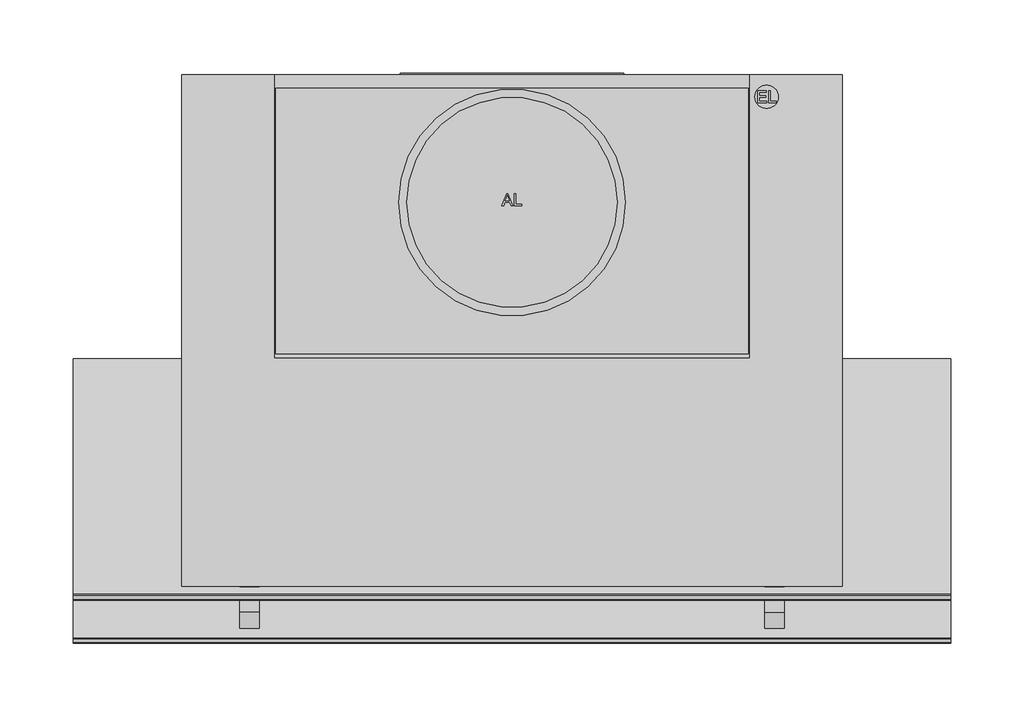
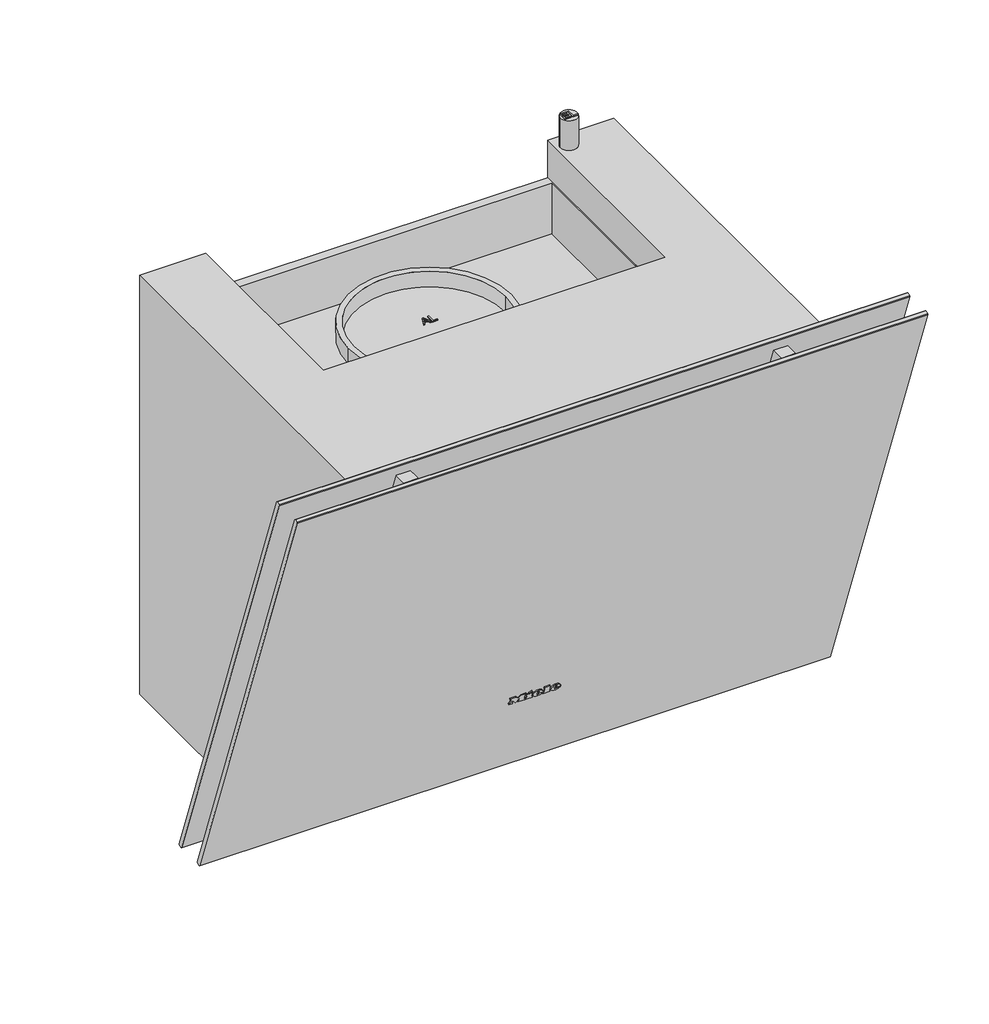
# Not in any storey: 1 proxy.
"""IFC4 building model written with IfcOpenShell, lengths in millimetres."""

import ifcopenshell
import ifcopenshell.guid

model = None  # the IFC model being written
_history = None  # IfcOwnerHistory: only IFC2X3 demands one
_inside = {}  # id of a spatial element -> (the spatial element, [elements in it])
_under = {}  # id of a project, library or spatial element -> (it, [spatial elements below it])
_declared = {}  # id of a project -> (the project, [libraries it declares])
_typed = {}  # id of a type object -> (the type object, [elements of that type])
_made_of = {}  # id of a material, layer set ... -> (it, [elements and type objects made of it])


def new_model(schema):
    """Start an empty IFC model of exactly this schema.

    Asked for "IFC4X3", IfcOpenShell would pick the latest addendum, in which some entities
    have other attributes; the version numbers below select the first issue.
    IFC2X3 requires an IfcOwnerHistory on every rooted entity: one is made here for all.
    """
    global model, _history
    if schema == "IFC4X3":
        model = ifcopenshell.file(schema_version=(4, 3, 0, 0))
    else:
        model = ifcopenshell.file(schema=schema)
    _inside.clear()
    _under.clear()
    _declared.clear()
    _typed.clear()
    _made_of.clear()
    _history = None
    if model.schema == "IFC2X3":
        org = make("IfcOrganization", Name="unknown")
        user = make(
            "IfcPersonAndOrganization",
            ThePerson=make("IfcPerson", FamilyName="unknown"),
            TheOrganization=org,
        )
        app = make(
            "IfcApplication",
            ApplicationDeveloper=org,
            Version="unknown",
            ApplicationFullName="unknown",
            ApplicationIdentifier="unknown",
        )
        _history = make(
            "IfcOwnerHistory",
            OwningUser=user,
            OwningApplication=app,
            ChangeAction="ADDED",
            CreationDate=0,
        )
    return model


def make(cls, **values):
    """One entity of the class cls with the attributes given. An attribute that is None is left unset."""
    return model.create_entity(
        cls, **{name: value for name, value in values.items() if value is not None}
    )


def rooted(cls, **values):
    """An entity with a GlobalId (a new one), such as an element, a storey or a relation."""
    return make(cls, GlobalId=ifcopenshell.guid.new(), OwnerHistory=_history, **values)


def si_unit(unit_type, name, prefix=None):
    """IfcSIUnit, for example si_unit("LENGTHUNIT", "METRE", prefix="MILLI")."""
    return make("IfcSIUnit", UnitType=unit_type, Prefix=prefix, Name=name)


def assignment(units):
    """IfcUnitAssignment: the units of a project."""
    return None if units is None else make("IfcUnitAssignment", Units=units)


def point(xyz):
    """IfcCartesianPoint."""
    return None if xyz is None else make("IfcCartesianPoint", Coordinates=xyz)


def direction(xyz):
    """IfcDirection."""
    return None if xyz is None else make("IfcDirection", DirectionRatios=xyz)


def frame(location, z_axis=None, x_axis=None):
    """IfcAxis2Placement3D, a coordinate frame: its origin and axes. An axis left out is left unset."""
    return make(
        "IfcAxis2Placement3D",
        Location=point(location),
        Axis=direction(z_axis),
        RefDirection=direction(x_axis),
    )


def frame_2d(location, x_axis=None):
    """IfcAxis2Placement2D, a coordinate frame in the plane: its origin and x axis."""
    return make(
        "IfcAxis2Placement2D", Location=point(location), RefDirection=direction(x_axis)
    )


def origin():
    """The frame at (0, 0, 0) with its axes left unset."""
    return frame((0.0, 0.0, 0.0))


def origin_with_axes():
    """The frame at (0, 0, 0) with the z axis (0, 0, 1) and the x axis (1, 0, 0) written out."""
    return frame((0.0, 0.0, 0.0), z_axis=(0.0, 0.0, 1.0), x_axis=(1.0, 0.0, 0.0))


def place(relative_to, where):
    """IfcLocalPlacement: puts the frame where relative to a parent placement (None: the world)."""
    return make(
        "IfcLocalPlacement", PlacementRelTo=relative_to, RelativePlacement=where
    )


def context(
    kind, dimensions, precision=None, world=None, true_north=None, identifier=None
):
    """IfcGeometricRepresentationContext, for example the 3D "Model" context."""
    return make(
        "IfcGeometricRepresentationContext",
        ContextIdentifier=identifier,
        ContextType=kind,
        CoordinateSpaceDimension=dimensions,
        Precision=precision,
        WorldCoordinateSystem=world,
        TrueNorth=true_north,
    )


def project(units=None, contexts=None):
    """IfcProject with its units and contexts."""
    return rooted(
        "IfcProject",
        Name="project",
        RepresentationContexts=contexts,
        UnitsInContext=assignment(units),
    )


def spatial(cls, under=None, at=None, **own):
    """A site, building, storey or space (cls), placed at a placement, below another one or the project."""
    s = rooted(cls, ObjectPlacement=at, **own)
    if under is not None:
        _under.setdefault(under.id(), (under, []))[1].append(s)
    return s


def polyline(points):
    """IfcPolyline through the points."""
    return make("IfcPolyline", Points=[point(p) for p in points])


def circle_curve(where, radius):
    """IfcCircle in the frame where."""
    return make("IfcCircle", Position=where, Radius=radius)


def ellipse_curve(where, semi_axis1, semi_axis2):
    """IfcEllipse in the frame where."""
    return make(
        "IfcEllipse", Position=where, SemiAxis1=semi_axis1, SemiAxis2=semi_axis2
    )


def trimmed(basis, trim1, trim2, sense, master):
    """IfcTrimmedCurve: the piece of a basis curve between two trims."""
    return make(
        "IfcTrimmedCurve",
        BasisCurve=basis,
        Trim1=trim1,
        Trim2=trim2,
        SenseAgreement=sense,
        MasterRepresentation=master,
    )


def segment(curve, same_sense, transition):
    """IfcCompositeCurveSegment."""
    return make(
        "IfcCompositeCurveSegment",
        Transition=transition,
        SameSense=same_sense,
        ParentCurve=curve,
    )


def composite_curve(segments, self_intersect=None):
    """IfcCompositeCurve: segments joined end to end."""
    return make("IfcCompositeCurve", Segments=segments, SelfIntersect=self_intersect)


def outline(outer, holes=None, kind="AREA"):
    """IfcArbitraryClosedProfileDef: a profile drawn as a closed curve; with holes, ...WithVoids."""
    if holes is None:
        return make("IfcArbitraryClosedProfileDef", ProfileType=kind, OuterCurve=outer)
    return make(
        "IfcArbitraryProfileDefWithVoids",
        ProfileType=kind,
        OuterCurve=outer,
        InnerCurves=holes,
    )


def extrude(swept, where, along, depth):
    """IfcExtrudedAreaSolid: the profile swept, set in the frame where, extruded along a direction by depth."""
    return make(
        "IfcExtrudedAreaSolid",
        SweptArea=swept,
        Position=where,
        ExtrudedDirection=direction(along),
        Depth=depth,
    )


def faces_of(points, faces, orient=None, outer=None):
    """IfcFace entities. A face is a list of loops; a loop is a list of indices into points, from 0.

    orient and outer hold one flag for each loop. By default every Orientation is true, the
    first loop of a face is its IfcFaceOuterBound and the others are IfcFaceBound.
    """
    made = []
    for i, loops in enumerate(faces):
        bounds = []
        for j, loop in enumerate(loops):
            is_outer = j == 0 if outer is None else outer[i][j]
            bounds.append(
                make(
                    "IfcFaceOuterBound" if is_outer else "IfcFaceBound",
                    Bound=make("IfcPolyLoop", Polygon=[points[k] for k in loop]),
                    Orientation=True if orient is None else orient[i][j],
                )
            )
        made.append(make("IfcFace", Bounds=bounds))
    return made


def faceted_brep(points, faces, orient=None, outer=None, voids=None):
    """IfcFacetedBrep: a solid bounded by flat faces; with voids (closed shells), ...WithVoids."""
    shared = [point(p) for p in points]
    hull = make("IfcClosedShell", CfsFaces=faces_of(shared, faces, orient, outer))
    if voids is None:
        return make("IfcFacetedBrep", Outer=hull)
    return make(
        "IfcFacetedBrepWithVoids",
        Outer=hull,
        Voids=[
            make(cls, CfsFaces=faces_of(shared, fs, o, b)) for cls, fs, o, b in voids
        ],
    )


def shape(context_of_items, identifier, shape_type, items):
    """IfcShapeRepresentation: the items that make up one representation, for example the "Body"."""
    return make(
        "IfcShapeRepresentation",
        ContextOfItems=context_of_items,
        RepresentationIdentifier=identifier,
        RepresentationType=shape_type,
        Items=items,
    )


def source(mapping_origin, context_of_items, identifier, shape_type, items):
    """IfcRepresentationMap: a shape defined once, which mapped items show again and again."""
    return make(
        "IfcRepresentationMap",
        MappingOrigin=mapping_origin,
        MappedRepresentation=shape(context_of_items, identifier, shape_type, items),
    )


def transform(
    local_origin,
    x_axis=None,
    y_axis=None,
    z_axis=None,
    scale=None,
    scale2=None,
    scale3=None,
    uniform=True,
):
    """IfcCartesianTransformationOperator3D, or its non-uniform kind. x_axis, y_axis, z_axis: its Axis1, 2, 3."""
    if uniform:
        return make(
            "IfcCartesianTransformationOperator3D",
            Axis1=direction(x_axis),
            Axis2=direction(y_axis),
            LocalOrigin=point(local_origin),
            Scale=scale,
            Axis3=direction(z_axis),
        )
    return make(
        "IfcCartesianTransformationOperator3DnonUniform",
        Axis1=direction(x_axis),
        Axis2=direction(y_axis),
        LocalOrigin=point(local_origin),
        Scale=scale,
        Axis3=direction(z_axis),
        Scale2=scale2,
        Scale3=scale3,
    )


def mapped(mapping_source, mapping_target):
    """IfcMappedItem: shows the shape of a source again, moved by a transform."""
    return make(
        "IfcMappedItem", MappingSource=mapping_source, MappingTarget=mapping_target
    )


def made_of(thing, what):
    """Note that an element or type object is made of a material, layer set ...; save() writes the relation."""
    if what is not None:
        _made_of.setdefault(what.id(), (what, []))[1].append(thing)
    return thing


def element(
    cls,
    number,
    at=None,
    inside=None,
    cuts=None,
    type_object=None,
    material=None,
    context=None,
    identifier="Body",
    shape_type=None,
    held_by="IfcProductDefinitionShape",
    body=None,
    shapes=None,
    **own,
):
    """One element of the class cls, such as IfcWall. Its Tag is "e" and its number.

    at: its placement. inside: the storey or other place that contains it. cuts: it is an
    opening in that element (IfcRelVoidsElement). A single representation is given by context,
    identifier, shape_type and body (its items); several are given by shapes. held_by: the class
    of the entity that holds the representations. save() writes the other relations.
    """
    e = rooted(cls, Tag="e%d" % number, ObjectPlacement=at, **own)
    if body is not None:
        shapes = [shape(context, identifier, shape_type, body)]
    if shapes is not None:
        e.Representation = make(held_by, Representations=shapes)
    if inside is not None:
        _inside.setdefault(inside.id(), (inside, []))[1].append(e)
    if cuts is not None:
        rooted(
            "IfcRelVoidsElement", RelatingBuildingElement=cuts, RelatedOpeningElement=e
        )
    if type_object is not None:
        _typed.setdefault(type_object.id(), (type_object, []))[1].append(e)
    return made_of(e, material)


def aggregate(whole, parts):
    """IfcRelAggregates: a whole, such as a stair, and the parts it consists of."""
    return rooted("IfcRelAggregates", RelatingObject=whole, RelatedObjects=parts)


def save(model, path):
    """Write the relations noted so far, then the file.

    IfcRelAggregates (storeys below a building ...), IfcRelContainedInSpatialStructure (elements
    in a storey), IfcRelDefinesByType, IfcRelAssociatesMaterial and IfcRelDeclares: one each for
    every whole, place, type object, material and project.
    """
    for whole, parts in _under.values():
        aggregate(whole, parts)
    for where, things in _inside.values():
        rooted(
            "IfcRelContainedInSpatialStructure",
            RelatedElements=things,
            RelatingStructure=where,
        )
    for kind, things in _typed.values():
        rooted("IfcRelDefinesByType", RelatedObjects=things, RelatingType=kind)
    for what, things in _made_of.values():
        rooted("IfcRelAssociatesMaterial", RelatedObjects=things, RelatingMaterial=what)
    for by, libraries in _declared.values():
        rooted("IfcRelDeclares", RelatingContext=by, RelatedDefinitions=libraries)
    model.write(path)


def plane_surface(at):
    """IfcPlane: the flat surface through the origin of the frame at, square to its z axis."""
    return make("IfcPlane", Position=at)


def cylinder_surface(at, radius):
    """IfcCylindricalSurface: all points at the distance radius from the z axis of the frame at."""
    return make("IfcCylindricalSurface", Position=at, Radius=radius)


def revolved_surface(curve, axis_point, axis_direction):
    """IfcSurfaceOfRevolution: the curve turned about the line through axis_point along axis_direction."""
    return make(
        "IfcSurfaceOfRevolution",
        SweptCurve=make("IfcArbitraryOpenProfileDef", ProfileType="CURVE", Curve=curve),
        AxisPosition=make("IfcAxis1Placement", Location=point(axis_point), Axis=direction(axis_direction)),
    )


def extruded_surface(curve, direction_of_extrusion, depth):
    """IfcSurfaceOfLinearExtrusion: the curve pushed along a direction by depth."""
    return make(
        "IfcSurfaceOfLinearExtrusion",
        SweptCurve=make("IfcArbitraryOpenProfileDef", ProfileType="CURVE", Curve=curve),
        ExtrudedDirection=direction(direction_of_extrusion),
        Depth=depth,
    )


def advanced_brep(points, edges, surfaces, faces):
    """IfcAdvancedBrep: a solid bounded by faces that lie on surfaces and meet in shared edges.

    An edge is (start, end): straight between two places in points (the first is 0);
    or (start, end, curve); or (start, end, curve, False) where it runs against its curve.
    A face is (place in surfaces, loops), or (place, loops, False) where it looks against
    its surface's normal. A loop lists edges by number (the first is 1), with a minus sign
    where the edge is run from its end to its start. The first loop is the outer one.
    """
    corners = [point(p) for p in points]
    vertices = [make("IfcVertexPoint", VertexGeometry=c) for c in corners]
    made = []
    for start, end, *more in edges:
        made.append(
            make(
                "IfcEdgeCurve",
                EdgeStart=vertices[start],
                EdgeEnd=vertices[end],
                EdgeGeometry=more[0] if more else make("IfcPolyline", Points=[corners[start], corners[end]]),
                SameSense=more[1] if len(more) > 1 else True,
            )
        )
    hull = []
    for where, loops, *sense in faces:
        bounds = []
        for j, loop in enumerate(loops):
            ring = [make("IfcOrientedEdge", EdgeElement=made[abs(k) - 1], Orientation=k > 0) for k in loop]
            bounds.append(
                make(
                    "IfcFaceOuterBound" if j == 0 else "IfcFaceBound",
                    Bound=make("IfcEdgeLoop", EdgeList=ring),
                    Orientation=True,
                )
            )
        hull.append(make("IfcAdvancedFace", Bounds=bounds, FaceSurface=surfaces[where], SameSense=sense[0] if sense else True))
    return make("IfcAdvancedBrep", Outer=make("IfcClosedShell", CfsFaces=hull))


def specialty_equipment_4fd9b456(model_context):
    return source(origin(), model_context, "Body", "SolidModel", [
        extrude(outline(polyline([(0.0, 0.0), (0.968, 0.0), (0.968, 5.352), (0.0, 5.352), (0.0, 6.696), (3.52, 6.696), (3.52, 5.352), (2.56, 5.352), (2.56, 1.9488753), (6.136, 6.696), (9.728, 1.8807777), (9.728, 5.352), (8.744, 5.352), (8.744, 6.696), (15.128, 6.696), (15.128, 5.352), (14.112, 5.352), (14.112, 0.0), (15.128, 0.0), (15.128, -1.304), (10.256, -1.304), (7.92, 1.696), (5.576, -1.304), (0.0, -1.304), (0.0, 0.0)])), frame((-24.271984, -261.1380975, 82.2921818), z_axis=(0.0, 0.9396926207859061, 0.34202014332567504), x_axis=(1.0, 0.0, 0.0)), (0.0, 0.0, 1.0), 1.0),
        extrude(outline(polyline([(0.0, 0.0), (0.96, 0.0), (0.96, 5.352), (0.0, 5.352), (0.0, 6.696), (6.488, 6.696), (6.488, 5.352), (5.504, 5.352), (5.504, -1.304), (0.0, -1.304), (0.0, 0.0)])), frame((8.192016, -261.1380975, 82.2921818), z_axis=(0.0, 0.9396926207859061, 0.34202014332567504), x_axis=(1.0, 0.0, 0.0)), (0.0, 0.0, 1.0), 1.0),
        extrude(outline(polyline([(0.0, 0.0), (1.4315306, 0.0), (1.4390414, -2.9920869), (0.0109086, -2.9993294), (0.0, 0.0)])), frame((-6.351984, -261.4226582, 83.074006), z_axis=(0.0, 0.9396926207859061, 0.342020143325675), x_axis=(0.42472021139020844, 0.30963927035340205, -0.8507269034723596)), (0.0, 0.0, 1.0), 1.0),
        extrude(outline(polyline([(0.4933907, 2.4141097), (1.7898156, 3.022309), (2.1941493, 2.1604399), (5.1636141, 3.5535222), (4.7592805, 4.4153913), (5.9760369, 4.9862153), (8.6568708, -0.728194), (7.4401145, -1.299018), (7.0459741, -0.4588767), (2.7800843, -2.4601583), (0.4933907, 2.4141097)])), frame((-6.351984, -261.4226582, 83.074006), z_axis=(0.0, 0.9396926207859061, 0.342020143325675), x_axis=(0.42472021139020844, 0.30963927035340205, -0.8507269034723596)), (0.0, 0.0, 1.0), 1.0),
        advanced_brep(
        [(2.392016, -259.4964008, 77.7816572), (2.392016, -259.7727531, 78.5409288), (7.744016, -259.7727531, 78.5409288), (-1.567984, -259.7727531, 78.5409288), (0.632016, -258.8479306, 76.0), (7.608016, -259.4964008, 77.7816572), (5.192016, -259.4964008, 77.7816572), (3.288016, -259.1899507, 76.9396926), (2.392016, -260.1229817, 79.5031741), (2.392016, -260.4212233, 80.3225861), (3.760016, -260.4212233, 80.3225861), (3.760016, -260.1229817, 79.5031741), (2.392016, -258.5567082, 78.1236774), (3.288016, -258.2502581, 77.2817128), (5.192016, -258.5567082, 78.1236774), (7.608016, -258.5567082, 78.1236774), (0.632016, -257.908238, 76.3420201), (-1.567984, -258.8330604, 78.882949), (7.744016, -258.8330604, 78.882949), (2.392016, -258.8330604, 78.882949), (2.392016, -259.1832891, 79.8451942), (3.760016, -259.1832891, 79.8451942), (3.760016, -259.4815306, 80.6646062), (2.392016, -259.4815306, 80.6646062)],
        [
            (0, 1),
            (1, 2),
            (2, 3, ellipse_curve(frame((3.088016, -259.7727531, 78.5409288), z_axis=(0.0, -0.9396926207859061, -0.34202014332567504), x_axis=(-1.0, 0.0, 0.0)), 4.656, 3.848)),
            (3, 4, circle_curve(frame((1.5280596, -259.8657825, 78.7965252), z_axis=(0.0, -0.9396926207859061, -0.34202014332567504), x_axis=(0.0, 0.34202014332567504, -0.9396926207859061)), 3.1079688)),
            (4, 5, circle_curve(frame((2.9948096, -260.5881291, 80.7811561), z_axis=(0.0, -0.9396926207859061, -0.34202014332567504), x_axis=(0.0, 0.34202014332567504, -0.9396926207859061)), 5.6098607)),
            (5, 6),
            (6, 7, circle_curve(frame((3.6790748, -259.7508638, 78.4807885), z_axis=(0.0, 0.9396926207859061, 0.34202014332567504), x_axis=(0.0, 0.34202014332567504, -0.9396926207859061)), 1.6859795)),
            (7, 0, circle_curve(frame((3.288016, -259.4964008, 77.7816572), z_axis=(0.0, 0.9396926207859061, 0.34202014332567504), x_axis=(0.0, 0.34202014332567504, -0.9396926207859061)), 0.896)),
            (8, 9),
            (9, 10, circle_curve(frame((3.076016, -260.4212233, 80.3225861), z_axis=(0.0, 0.9396926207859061, 0.34202014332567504), x_axis=(0.0, 0.34202014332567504, -0.9396926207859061)), 0.684)),
            (10, 11),
            (11, 8),
            (12, 13, circle_curve(frame((3.288016, -258.5567082, 78.1236774), z_axis=(0.0, -0.9396926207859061, -0.34202014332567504), x_axis=(0.0, 0.34202014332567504, -0.9396926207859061)), 0.896)),
            (13, 14, circle_curve(frame((3.6790748, -258.8111712, 78.8228087), z_axis=(0.0, -0.9396926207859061, -0.34202014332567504), x_axis=(0.0, 0.34202014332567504, -0.9396926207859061)), 1.6859795)),
            (14, 15),
            (15, 16, circle_curve(frame((2.9948096, -259.6484365, 81.1231762), z_axis=(0.0, 0.9396926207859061, 0.34202014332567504), x_axis=(0.0, 0.34202014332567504, -0.9396926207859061)), 5.6098607)),
            (16, 17, circle_curve(frame((1.5280596, -258.9260899, 79.1385454), z_axis=(0.0, 0.9396926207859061, 0.34202014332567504), x_axis=(0.0, 0.34202014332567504, -0.9396926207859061)), 3.1079688)),
            (17, 18, ellipse_curve(frame((3.088016, -258.8330604, 78.882949), z_axis=(0.0, 0.9396926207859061, 0.34202014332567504), x_axis=(-1.0, 0.0, 0.0)), 4.656, 3.848)),
            (18, 19),
            (19, 12),
            (20, 21),
            (21, 22),
            (22, 23, circle_curve(frame((3.076016, -259.4815306, 80.6646062), z_axis=(0.0, -0.9396926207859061, -0.34202014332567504), x_axis=(0.0, 0.34202014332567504, -0.9396926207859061)), 0.684)),
            (23, 20),
            (0, 12),
            (19, 1),
            (18, 2),
            (5, 15),
            (14, 6),
            (17, 3),
            (13, 7),
            (16, 4),
            (8, 20),
            (23, 9),
            (22, 10),
            (21, 11),
        ],
        [
            plane_surface(frame((2.392016, -259.7727531, 78.5409288), z_axis=(0.0, -0.9396926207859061, -0.34202014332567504), x_axis=(0.0, -0.34202014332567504, 0.9396926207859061))),
            plane_surface(frame((2.392016, -258.8330604, 78.882949), z_axis=(0.0, 0.9396926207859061, 0.34202014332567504), x_axis=(0.0, 0.34202014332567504, -0.9396926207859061))),
            plane_surface(frame((2.392016, -259.4964008, 77.7816572), z_axis=(1.0, 0.0, 0.0), x_axis=(0.0, 0.9396926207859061, 0.34202014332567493))),
            plane_surface(frame((2.392016, -259.7727531, 78.5409288), z_axis=(0.0, 0.34202014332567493, -0.9396926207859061), x_axis=(0.0, 0.9396926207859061, 0.34202014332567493))),
            plane_surface(frame((7.608016, -259.4964008, 77.7816572), z_axis=(0.0, -0.34202014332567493, 0.9396926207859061), x_axis=(0.0, 0.9396926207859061, 0.34202014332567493))),
            extruded_surface(trimmed(ellipse_curve(frame((3.088016, -257.8933678, 79.2249691), z_axis=(0.0, -0.9396926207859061, -0.34202014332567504), x_axis=(-1.0, 0.0, 0.0)), 4.656, 3.848), [point((7.744016, -257.8933678, 79.2249691))], [point((-1.567984, -257.8933678, 79.2249691))], True, "CARTESIAN"), (0.0, -0.9396926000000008, -0.34202009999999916), 0.9999999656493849),
            revolved_surface(polyline([(3.6790748, -258.2345321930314, 77.23850622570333), (3.6790748, -259.1742248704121, 76.89648606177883)]), (3.6790748, -258.8111712, 78.8228087), (0.0, 0.9396926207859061, 0.34202014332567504)),
            revolved_surface(polyline([(3.288016, -258.25025810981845, 77.28171282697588), (3.288016, -259.1899507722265, 76.93969266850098)]), (3.288016, -258.5567082, 78.1236774), (0.0, 0.9396926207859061, 0.34202014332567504)),
            cylinder_surface(frame((1.5280596, -258.9260899, 79.1385454), z_axis=(0.0, -0.9396926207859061, -0.34202014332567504), x_axis=(0.0, 0.34202014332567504, -0.9396926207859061)), 3.1079688),
            cylinder_surface(frame((2.9948096, -259.6484365, 81.1231762), z_axis=(0.0, -0.9396926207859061, -0.34202014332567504), x_axis=(0.0, 0.34202014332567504, -0.9396926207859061)), 5.6098607),
            plane_surface(frame((2.392016, -260.1229817, 79.5031741), z_axis=(1.0, 0.0, 0.0), x_axis=(0.0, 0.9396926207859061, 0.34202014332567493))),
            revolved_surface(polyline([(3.076016, -259.2475888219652, 80.02185644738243), (3.076016, -260.1872814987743, 79.67983628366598)]), (3.076016, -259.4815306, 80.6646062), (0.0, 0.9396926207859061, 0.34202014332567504)),
            plane_surface(frame((3.760016, -260.4212233, 80.3225861), z_axis=(-1.0, 0.0, 0.0), x_axis=(0.0, 0.9396926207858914, 0.3420201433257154))),
            plane_surface(frame((3.760016, -260.1229817, 79.5031741), z_axis=(0.0, -0.34202014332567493, 0.9396926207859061), x_axis=(0.0, 0.9396926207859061, 0.34202014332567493))),
        ],
        [
            (0, [[1, 2, 3, 4, 5, 6, 7, 8], [9, 10, 11, 12]]),
            (1, [[13, 14, 15, 16, 17, 18, 19, 20], [21, 22, 23, 24]]),
            (2, [[-1, 25, -20, 26]]),
            (3, [[-2, -26, -19, 27]]),
            (4, [[-6, 28, -15, 29]]),
            (5, [[-3, -27, -18, 30]]),
            (6, [[-7, -29, -14, 31]]),
            (7, [[-8, -31, -13, -25]]),
            (8, [[-4, -30, -17, 32]]),
            (9, [[-5, -32, -16, -28]]),
            (10, [[-9, 33, -24, 34]]),
            (11, [[-10, -34, -23, 35]]),
            (12, [[-11, -35, -22, 36]]),
            (13, [[-12, -36, -21, -33]]),
        ],
    ),
        advanced_brep(
        [(19.088016, -259.4964008, 77.7816572), (19.088016, -259.7727531, 78.5409288), (24.440016, -259.7727531, 78.5409288), (15.128016, -259.7727531, 78.5409288), (17.328016, -258.8479306, 76.0), (24.304016, -259.4964008, 77.7816572), (21.888016, -259.4964008, 77.7816572), (19.984016, -259.1899507, 76.9396926), (19.088016, -260.1229817, 79.5031741), (19.088016, -260.4212233, 80.3225861), (20.456016, -260.4212233, 80.3225861), (20.456016, -260.1229817, 79.5031741), (19.088016, -258.5567082, 78.1236774), (19.984016, -258.2502581, 77.2817128), (21.888016, -258.5567082, 78.1236774), (24.304016, -258.5567082, 78.1236774), (17.328016, -257.908238, 76.3420201), (15.128016, -258.8330604, 78.882949), (24.440016, -258.8330604, 78.882949), (19.088016, -258.8330604, 78.882949), (19.088016, -259.1832891, 79.8451942), (20.456016, -259.1832891, 79.8451942), (20.456016, -259.4815306, 80.6646062), (19.088016, -259.4815306, 80.6646062)],
        [
            (0, 1),
            (1, 2),
            (2, 3, ellipse_curve(frame((19.784016, -259.7727531, 78.5409288), z_axis=(0.0, -0.9396926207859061, -0.34202014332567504), x_axis=(-1.0, 0.0, 0.0)), 4.656, 3.848)),
            (3, 4, circle_curve(frame((18.2240596, -259.8657825, 78.7965252), z_axis=(0.0, -0.9396926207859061, -0.34202014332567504), x_axis=(0.0, 0.34202014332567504, -0.9396926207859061)), 3.1079688)),
            (4, 5, circle_curve(frame((19.6908096, -260.5881291, 80.7811561), z_axis=(0.0, -0.9396926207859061, -0.34202014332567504), x_axis=(0.0, 0.34202014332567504, -0.9396926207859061)), 5.6098607)),
            (5, 6),
            (6, 7, circle_curve(frame((20.3750748, -259.7508638, 78.4807885), z_axis=(0.0, 0.9396926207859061, 0.34202014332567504), x_axis=(0.0, 0.34202014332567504, -0.9396926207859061)), 1.6859795)),
            (7, 0, circle_curve(frame((19.984016, -259.4964008, 77.7816572), z_axis=(0.0, 0.9396926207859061, 0.34202014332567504), x_axis=(0.0, 0.34202014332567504, -0.9396926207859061)), 0.896)),
            (8, 9),
            (9, 10, circle_curve(frame((19.772016, -260.4212233, 80.3225861), z_axis=(0.0, 0.9396926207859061, 0.34202014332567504), x_axis=(0.0, 0.34202014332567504, -0.9396926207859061)), 0.684)),
            (10, 11),
            (11, 8),
            (12, 13, circle_curve(frame((19.984016, -258.5567082, 78.1236774), z_axis=(0.0, -0.9396926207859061, -0.34202014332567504), x_axis=(0.0, 0.34202014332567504, -0.9396926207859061)), 0.896)),
            (13, 14, circle_curve(frame((20.3750748, -258.8111712, 78.8228087), z_axis=(0.0, -0.9396926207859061, -0.34202014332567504), x_axis=(0.0, 0.34202014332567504, -0.9396926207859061)), 1.6859795)),
            (14, 15),
            (15, 16, circle_curve(frame((19.6908096, -259.6484365, 81.1231762), z_axis=(0.0, 0.9396926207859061, 0.34202014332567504), x_axis=(0.0, 0.34202014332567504, -0.9396926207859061)), 5.6098607)),
            (16, 17, circle_curve(frame((18.2240596, -258.9260899, 79.1385454), z_axis=(0.0, 0.9396926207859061, 0.34202014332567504), x_axis=(0.0, 0.34202014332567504, -0.9396926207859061)), 3.1079688)),
            (17, 18, ellipse_curve(frame((19.784016, -258.8330604, 78.882949), z_axis=(0.0, 0.9396926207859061, 0.34202014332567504), x_axis=(-1.0, 0.0, 0.0)), 4.656, 3.848)),
            (18, 19),
            (19, 12),
            (20, 21),
            (21, 22),
            (22, 23, circle_curve(frame((19.772016, -259.4815306, 80.6646062), z_axis=(0.0, -0.9396926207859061, -0.34202014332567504), x_axis=(0.0, 0.34202014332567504, -0.9396926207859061)), 0.684)),
            (23, 20),
            (0, 12),
            (19, 1),
            (18, 2),
            (5, 15),
            (14, 6),
            (17, 3),
            (13, 7),
            (16, 4),
            (8, 20),
            (23, 9),
            (22, 10),
            (21, 11),
        ],
        [
            plane_surface(frame((19.088016, -259.7727531, 78.5409288), z_axis=(0.0, -0.9396926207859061, -0.34202014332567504), x_axis=(0.0, -0.34202014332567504, 0.9396926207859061))),
            plane_surface(frame((19.088016, -258.8330604, 78.882949), z_axis=(0.0, 0.9396926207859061, 0.34202014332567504), x_axis=(0.0, 0.34202014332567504, -0.9396926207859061))),
            plane_surface(frame((19.088016, -259.4964008, 77.7816572), z_axis=(1.0, 0.0, 0.0), x_axis=(0.0, 0.9396926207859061, 0.34202014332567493))),
            plane_surface(frame((19.088016, -259.7727531, 78.5409288), z_axis=(0.0, 0.34202014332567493, -0.9396926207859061), x_axis=(0.0, 0.9396926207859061, 0.34202014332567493))),
            plane_surface(frame((24.304016, -259.4964008, 77.7816572), z_axis=(0.0, -0.34202014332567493, 0.9396926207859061), x_axis=(0.0, 0.9396926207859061, 0.34202014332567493))),
            extruded_surface(trimmed(ellipse_curve(frame((19.784016, -257.8933678, 79.2249691), z_axis=(0.0, -0.9396926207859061, -0.34202014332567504), x_axis=(-1.0, 0.0, 0.0)), 4.656, 3.848), [point((24.440016, -257.8933678, 79.2249691))], [point((15.128016, -257.8933678, 79.2249691))], True, "CARTESIAN"), (0.0, -0.9396926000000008, -0.34202009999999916), 0.9999999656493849),
            revolved_surface(polyline([(20.3750748, -258.2345321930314, 77.23850622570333), (20.3750748, -259.1742248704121, 76.89648606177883)]), (20.3750748, -258.8111712, 78.8228087), (0.0, 0.9396926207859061, 0.34202014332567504)),
            revolved_surface(polyline([(19.984016, -258.25025810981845, 77.28171282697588), (19.984016, -259.1899507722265, 76.93969266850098)]), (19.984016, -258.5567082, 78.1236774), (0.0, 0.9396926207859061, 0.34202014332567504)),
            cylinder_surface(frame((18.2240596, -258.9260899, 79.1385454), z_axis=(0.0, -0.9396926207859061, -0.34202014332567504), x_axis=(0.0, 0.34202014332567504, -0.9396926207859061)), 3.1079688),
            cylinder_surface(frame((19.6908096, -259.6484365, 81.1231762), z_axis=(0.0, -0.9396926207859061, -0.34202014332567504), x_axis=(0.0, 0.34202014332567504, -0.9396926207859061)), 5.6098607),
            plane_surface(frame((19.088016, -260.1229817, 79.5031741), z_axis=(1.0, 0.0, 0.0), x_axis=(0.0, 0.9396926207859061, 0.34202014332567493))),
            revolved_surface(polyline([(19.772016, -259.2475888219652, 80.02185644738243), (19.772016, -260.1872814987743, 79.67983628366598)]), (19.772016, -259.4815306, 80.6646062), (0.0, 0.9396926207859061, 0.34202014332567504)),
            plane_surface(frame((20.456016, -260.4212233, 80.3225861), z_axis=(-1.0, 0.0, 0.0), x_axis=(0.0, 0.9396926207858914, 0.3420201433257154))),
            plane_surface(frame((20.456016, -260.1229817, 79.5031741), z_axis=(0.0, -0.34202014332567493, 0.9396926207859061), x_axis=(0.0, 0.9396926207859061, 0.34202014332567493))),
        ],
        [
            (0, [[1, 2, 3, 4, 5, 6, 7, 8], [9, 10, 11, 12]]),
            (1, [[13, 14, 15, 16, 17, 18, 19, 20], [21, 22, 23, 24]]),
            (2, [[-1, 25, -20, 26]]),
            (3, [[-2, -26, -19, 27]]),
            (4, [[-6, 28, -15, 29]]),
            (5, [[-3, -27, -18, 30]]),
            (6, [[-7, -29, -14, 31]]),
            (7, [[-8, -31, -13, -25]]),
            (8, [[-4, -30, -17, 32]]),
            (9, [[-5, -32, -16, -28]]),
            (10, [[-9, 33, -24, 34]]),
            (11, [[-10, -34, -23, 35]]),
            (12, [[-11, -35, -22, 36]]),
            (13, [[-12, -36, -21, -33]]),
        ],
    ),
        advanced_brep(
        [(-198.5, -231.2422284, 80.5173231), (-198.5, -240.9843308, 107.2835295), (-198.5, -235.8312261, 109.4708926), (-198.5, -225.8887113, 82.1540576), (-198.5, -250.514978, 76.8365225), (-198.5, -258.1140866, 97.7149017), (-198.5, -258.4754112, 96.7430581), (-198.5, -251.4164577, 77.3487429), (-198.5, -254.9459345, 87.0459005), (-198.5, -230.9198317, 95.7906867)],
        [
            (0, 1, circle_curve(frame((-198.5, -236.1132796, 93.9004263), z_axis=(0.0, 0.9396926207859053, 0.3420201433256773), x_axis=(0.0, -0.3420201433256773, 0.9396926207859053)), 14.2420009)),
            (1, 2),
            (2, 3, circle_curve(frame((-198.5, -230.8599687, 95.8124751), z_axis=(0.0, -0.9396926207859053, -0.3420201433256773), x_axis=(0.0, -0.3420201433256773, 0.9396926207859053)), 14.5349844)),
            (3, 0),
            (4, 5, circle_curve(frame((-198.5, -254.3145323, 87.2757121), z_axis=(0.0, 0.9396926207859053, 0.3420201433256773), x_axis=(0.0, -0.3420201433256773, 0.9396926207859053)), 11.1091535)),
            (5, 1),
            (0, 4),
            (6, 7, circle_curve(frame((-198.5, -254.9459345, 87.0459005), z_axis=(0.0, 0.9396926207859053, 0.3420201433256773), x_axis=(0.0, -0.3420201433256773, 0.9396926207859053)), 10.3194996)),
            (7, 4),
            (4, 5, circle_curve(frame((-198.5, -254.3145323, 87.2757121), z_axis=(0.0, -0.9396926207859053, -0.3420201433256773), x_axis=(0.0, -0.3420201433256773, 0.9396926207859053)), 11.1091535)),
            (5, 6),
            (8, 7),
            (6, 8),
            (2, 9),
            (9, 3),
            (2, 3, circle_curve(frame((-198.5, -230.9198317, 95.7906867), z_axis=(0.0, 0.9396926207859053, 0.3420201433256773), x_axis=(0.0, -0.3420201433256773, 0.9396926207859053)), 14.535124)),
            (1, 0, circle_curve(frame((-198.5, -236.1132796, 93.9004263), z_axis=(0.0, 0.9396926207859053, 0.3420201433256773), x_axis=(0.0, -0.3420201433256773, 0.9396926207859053)), 14.2420009)),
            (7, 6, circle_curve(frame((-198.5, -254.9459345, 87.0459005), z_axis=(0.0, 0.9396926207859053, 0.3420201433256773), x_axis=(0.0, -0.3420201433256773, 0.9396926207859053)), 10.3194996)),
        ],
        [
            revolved_surface(polyline([(-198.5, -235.8312261, 109.4708926), (-198.5, -240.9843308, 107.2835295)]), (-198.5, -255.2773841, 86.9252627), (0.0, -0.9396926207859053, -0.3420201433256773)),
            revolved_surface(polyline([(-198.5, -240.9843308, 107.2835295), (-198.5, -258.1140866, 97.7149017)]), (-198.5, -255.2773841, 86.9252627), (0.0, -0.9396926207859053, -0.3420201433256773)),
            revolved_surface(polyline([(-198.5, -258.1140866, 97.7149017), (-198.5, -258.4754112, 96.7430581)]), (-198.5, -255.2773841, 86.9252627), (0.0, -0.9396926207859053, -0.3420201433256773)),
            plane_surface(frame((-198.5, -254.9459345, 87.0459005), z_axis=(0.0, -0.9396926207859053, -0.3420201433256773), x_axis=(0.0, -0.3420201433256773, 0.9396926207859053))),
            plane_surface(frame((-198.5, -230.9198317, 95.7906867), z_axis=(0.0, 0.9396926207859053, 0.3420201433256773), x_axis=(0.0, -0.3420201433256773, 0.9396926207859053))),
        ],
        [
            (0, [[1, 2, 3, 4]]),
            (1, [[5, 6, -1, 7]]),
            (2, [[8, 9, 10, 11]]),
            (3, [[12, -8, 13]]),
            (4, [[-3, 14, 15]]),
            (4, [[16, -15, -14]]),
            (0, [[17, -4, -16, -2]]),
            (1, [[-10, -7, -17, -6]]),
            (2, [[18, -11, -5, -9]]),
            (3, [[-13, -18, -12]]),
        ],
    ),
        advanced_brep(
        [(-198.5, -262.8067778, 105.2732379), (-198.5, -249.4001153, 68.4387353), (-198.5, -252.3199878, 80.8696014), (-198.5, -257.0531232, 93.8737841), (-198.5, -250.699917, 68.232867), (-198.5, -263.9348133, 104.5954458), (-198.5, -257.3173652, 86.4141564), (-198.5, -254.6865555, 87.3716928)],
        [
            (0, 1, circle_curve(frame((-198.5, -256.1034466, 86.8559866), z_axis=(0.0, 0.9396926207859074, 0.34202014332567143), x_axis=(0.0, -0.34202014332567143, 0.9396926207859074)), 19.5992294)),
            (1, 2),
            (2, 3, circle_curve(frame((-198.5, -254.6865555, 87.3716928), z_axis=(0.0, -0.9396926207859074, -0.34202014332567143), x_axis=(0.0, -0.34202014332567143, 0.9396926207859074)), 6.9193811)),
            (3, 0),
            (1, 0, circle_curve(frame((-198.5, -256.1034466, 86.8559866), z_axis=(0.0, 0.9396926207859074, 0.34202014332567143), x_axis=(0.0, -0.34202014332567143, 0.9396926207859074)), 19.5992294)),
            (3, 2, circle_curve(frame((-198.5, -254.6865555, 87.3716928), z_axis=(0.0, -0.9396926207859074, -0.34202014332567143), x_axis=(0.0, -0.34202014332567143, 0.9396926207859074)), 6.9193811)),
            (4, 5, circle_curve(frame((-198.5, -257.3173652, 86.4141564), z_axis=(0.0, 0.9396926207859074, 0.34202014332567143), x_axis=(0.0, -0.34202014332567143, 0.9396926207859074)), 19.3481241)),
            (5, 0),
            (1, 4),
            (5, 4, circle_curve(frame((-198.5, -257.3173652, 86.4141564), z_axis=(0.0, 0.9396926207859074, 0.34202014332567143), x_axis=(0.0, -0.34202014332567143, 0.9396926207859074)), 19.3481241)),
            (6, 5),
            (4, 6),
            (3, 7),
            (7, 2),
        ],
        [
            revolved_surface(polyline([(-198.5, -257.0531232, 93.8737841), (-198.5, -262.8067778, 105.2732379)]), (-198.5, -254.6865555, 87.3716928), (0.0, -0.9396926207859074, -0.34202014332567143)),
            revolved_surface(polyline([(-198.5, -262.8067778, 105.2732379), (-198.5, -263.9348133, 104.5954458)]), (-198.5, -254.6865555, 87.3716928), (0.0, -0.9396926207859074, -0.34202014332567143)),
            plane_surface(frame((-198.5, -257.3173652, 86.4141564), z_axis=(0.0, -0.9396926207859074, -0.34202014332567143), x_axis=(0.0, -0.34202014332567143, 0.9396926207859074))),
            plane_surface(frame((-198.5, -254.6865555, 87.3716928), z_axis=(0.0, 0.9396926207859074, 0.34202014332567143), x_axis=(0.0, -0.34202014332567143, 0.9396926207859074))),
        ],
        [
            (0, [[1, 2, 3, 4]]),
            (0, [[5, -4, 6, -2]]),
            (1, [[7, 8, -5, 9]]),
            (1, [[10, -9, -1, -8]]),
            (2, [[11, -7, 12]]),
            (2, [[-12, -10, -11]]),
            (3, [[-6, 13, 14]]),
            (3, [[-3, -14, -13]]),
        ],
    ),
        advanced_brep(
        [(198.5, -225.9091808, 82.1477994), (198.5, -235.8509293, 109.4625291), (198.5, -240.9843308, 107.2835295), (198.5, -231.2422284, 80.5173231), (198.5, -258.1140866, 97.7149017), (198.5, -250.514978, 76.8365225), (198.5, -230.9018417, 95.8650227), (198.5, -258.4754112, 96.7430581), (198.5, -251.4164577, 77.3487429), (198.5, -254.9459345, 87.0459005)],
        [
            (0, 1, circle_curve(frame((198.5, -230.8800551, 95.8051643), z_axis=(0.0, -0.9396926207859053, -0.3420201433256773), x_axis=(0.0, -0.3420201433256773, 0.9396926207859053)), 14.5338641)),
            (1, 2),
            (2, 3, circle_curve(frame((198.5, -236.1132796, 93.9004263), z_axis=(0.0, 0.9396926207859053, 0.3420201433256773), x_axis=(0.0, -0.3420201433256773, 0.9396926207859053)), 14.2420009)),
            (3, 0),
            (2, 4),
            (4, 5, circle_curve(frame((198.5, -254.3145323, 87.2757121), z_axis=(0.0, 0.9396926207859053, 0.3420201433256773), x_axis=(0.0, -0.3420201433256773, 0.9396926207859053)), 11.1091535)),
            (5, 3),
            (6, 1),
            (0, 6),
            (0, 1, circle_curve(frame((198.5, -230.8800551, 95.8051643), z_axis=(0.0, 0.9396926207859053, 0.3420201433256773), x_axis=(0.0, -0.3420201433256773, 0.9396926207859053)), 14.5338641)),
            (3, 2, circle_curve(frame((198.5, -236.1132796, 93.9004263), z_axis=(0.0, 0.9396926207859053, 0.3420201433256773), x_axis=(0.0, -0.3420201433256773, 0.9396926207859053)), 14.2420009)),
            (5, 4, circle_curve(frame((198.5, -254.3145323, 87.2757121), z_axis=(0.0, 0.9396926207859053, 0.3420201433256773), x_axis=(0.0, -0.3420201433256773, 0.9396926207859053)), 11.1091535)),
            (4, 7),
            (7, 8, circle_curve(frame((198.5, -254.9459345, 87.0459005), z_axis=(0.0, 0.9396926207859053, 0.3420201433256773), x_axis=(0.0, -0.3420201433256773, 0.9396926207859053)), 10.3194996)),
            (8, 5),
            (8, 7, circle_curve(frame((198.5, -254.9459345, 87.0459005), z_axis=(0.0, 0.9396926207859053, 0.3420201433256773), x_axis=(0.0, -0.3420201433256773, 0.9396926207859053)), 10.3194996)),
            (7, 9),
            (9, 8),
        ],
        [
            revolved_surface(polyline([(198.5, -240.9843308, 107.2835295), (198.5, -235.8509293, 109.4625291)]), (198.5, -255.2773841, 86.9252627), (0.0, 0.9396926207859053, 0.3420201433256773)),
            revolved_surface(polyline([(198.5, -258.1140866, 97.7149017), (198.5, -240.9843308, 107.2835295)]), (198.5, -255.2773841, 86.9252627), (0.0, 0.9396926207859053, 0.3420201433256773)),
            plane_surface(frame((198.5, -230.8800551, 95.8051643), z_axis=(0.0, 0.9396926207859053, 0.3420201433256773), x_axis=(0.0, -0.3420201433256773, 0.9396926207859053))),
            revolved_surface(polyline([(198.5, -258.4754112, 96.7430581), (198.5, -258.1140866, 97.7149017)]), (198.5, -255.2773841, 86.9252627), (0.0, 0.9396926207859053, 0.3420201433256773)),
            plane_surface(frame((198.5, -254.9459345, 87.0459005), z_axis=(0.0, -0.9396926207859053, -0.3420201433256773), x_axis=(0.0, -0.3420201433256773, 0.9396926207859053))),
        ],
        [
            (0, [[1, 2, 3, 4]]),
            (1, [[-3, 5, 6, 7]]),
            (2, [[8, -1, 9]]),
            (2, [[-9, 10, -8]]),
            (0, [[-10, -4, 11, -2]]),
            (1, [[-11, -7, 12, -5]]),
            (3, [[-6, 13, 14, 15]]),
            (3, [[-12, -15, 16, -13]]),
            (4, [[-14, 17, 18]]),
            (4, [[-16, -18, -17]]),
        ],
    ),
        advanced_brep(
        [(198.5, -252.3199878, 80.8696014), (198.5, -257.0531232, 93.8737841), (198.5, -262.8067778, 105.2732379), (198.5, -249.4001153, 68.4387353), (198.5, -263.9348133, 104.5954458), (198.5, -250.699917, 68.232867), (198.5, -257.3173652, 86.4141564), (198.5, -254.6865555, 87.3716928)],
        [
            (0, 1, circle_curve(frame((198.5, -254.6865555, 87.3716928), z_axis=(0.0, -0.9396926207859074, -0.34202014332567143), x_axis=(0.0, -0.34202014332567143, 0.9396926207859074)), 6.9193811)),
            (1, 2),
            (2, 3, circle_curve(frame((198.5, -256.1034466, 86.8559866), z_axis=(0.0, 0.9396926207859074, 0.34202014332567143), x_axis=(0.0, -0.34202014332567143, 0.9396926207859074)), 19.5992294)),
            (3, 0),
            (1, 0, circle_curve(frame((198.5, -254.6865555, 87.3716928), z_axis=(0.0, -0.9396926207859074, -0.34202014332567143), x_axis=(0.0, -0.34202014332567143, 0.9396926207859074)), 6.9193811)),
            (3, 2, circle_curve(frame((198.5, -256.1034466, 86.8559866), z_axis=(0.0, 0.9396926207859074, 0.34202014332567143), x_axis=(0.0, -0.34202014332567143, 0.9396926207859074)), 19.5992294)),
            (2, 4),
            (4, 5, circle_curve(frame((198.5, -257.3173652, 86.4141564), z_axis=(0.0, 0.9396926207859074, 0.34202014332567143), x_axis=(0.0, -0.34202014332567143, 0.9396926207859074)), 19.3481241)),
            (5, 3),
            (5, 4, circle_curve(frame((198.5, -257.3173652, 86.4141564), z_axis=(0.0, 0.9396926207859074, 0.34202014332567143), x_axis=(0.0, -0.34202014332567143, 0.9396926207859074)), 19.3481241)),
            (4, 6),
            (6, 5),
            (7, 1),
            (0, 7),
        ],
        [
            revolved_surface(polyline([(198.5, -262.8067778, 105.2732379), (198.5, -257.0531232, 93.8737841)]), (198.5, -254.6865555, 87.3716928), (0.0, 0.9396926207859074, 0.34202014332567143)),
            revolved_surface(polyline([(198.5, -263.9348133, 104.5954458), (198.5, -262.8067778, 105.2732379)]), (198.5, -254.6865555, 87.3716928), (0.0, 0.9396926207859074, 0.34202014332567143)),
            plane_surface(frame((198.5, -257.3173652, 86.4141564), z_axis=(0.0, -0.9396926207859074, -0.34202014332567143), x_axis=(0.0, -0.34202014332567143, 0.9396926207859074))),
            plane_surface(frame((198.5, -254.6865555, 87.3716928), z_axis=(0.0, 0.9396926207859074, 0.34202014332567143), x_axis=(0.0, -0.34202014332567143, 0.9396926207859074))),
        ],
        [
            (0, [[1, 2, 3, 4]]),
            (0, [[5, -4, 6, -2]]),
            (1, [[-3, 7, 8, 9]]),
            (1, [[-6, -9, 10, -7]]),
            (2, [[-8, 11, 12]]),
            (2, [[-10, -12, -11]]),
            (3, [[13, -1, 14]]),
            (3, [[-14, -5, -13]]),
        ],
    ),
        extrude(outline(polyline([(-377.2541471, 415.9959153), (-366.2530147, 420.0), (-348.8949883, 420.0), (-315.0686278, 327.0628384), (-321.2276447, 324.8211395), (-334.9582954, 325.4920509), (-347.6637142, 334.6968691), (-377.2541471, 415.9959153)])), frame((-185.7167767, 0.0, 0.0), z_axis=(1.0, 0.0, 0.0), x_axis=(0.0, 1.0, 0.0)), (0.0, 0.0, 1.0), 13.4088513),
        extrude(outline(polyline([(-377.2541471, 415.9959153), (-366.2530147, 420.0), (-348.8949883, 420.0), (-315.0686278, 327.0628384), (-321.2276447, 324.8211395), (-334.9582954, 325.4920509), (-347.6637142, 334.6968691), (-377.2541471, 415.9959153)])), frame((172.3079253, 0.0, 0.0), z_axis=(1.0, 0.0, 0.0), x_axis=(0.0, 1.0, 0.0)), (0.0, 0.0, 1.0), 13.4088513),
        extrude(outline(polyline([(-387.1323401, 432.8365045), (-384.310791, 433.8634644), (-383.5944926, 433.4158714), (-223.2772642, -7.0520936), (-223.5613092, -7.7920563), (-226.3696341, -8.8142029), (-227.0596169, -8.4158411), (-387.3899893, 432.0882368), (-387.1323401, 432.8365045)])), frame((-299.0, 0.0, 0.0), z_axis=(1.0, 0.0, 0.0), x_axis=(0.0, 1.0, 0.0)), (0.0, 0.0, 1.0), 598.0),
        extrude(outline(polyline([(-357.7500767, 432.8365045), (-354.6517562, 433.9642009), (-353.7790899, 433.4190033), (-193.5484199, -6.8114741), (-193.8719465, -7.7304916), (-196.9340313, -8.8449984), (-197.6773535, -8.4158411), (-358.007726, 432.0882368), (-357.7500767, 432.8365045)])), frame((-299.0, 0.0, 0.0), z_axis=(1.0, 0.0, 0.0), x_axis=(0.0, 1.0, 0.0)), (0.0, 0.0, 1.0), 598.0),
        extrude(outline(polyline([(-287.1198024, 229.753659), (-287.6205942, 218.2841221), (-296.0848836, 210.5280081), (-301.7042998, 208.4827078), (-327.3688694, 278.9955333), (-319.9071972, 281.7113599), (-309.7792372, 280.1072486), (-302.5107089, 272.039827), (-287.1198024, 229.753659)])), frame((182.9499624, 0.0, 0.0), z_axis=(1.0, 0.0, 0.0), x_axis=(0.0, 1.0, 0.0)), (0.0, 0.0, 1.0), 3.1163744),
        extrude(outline(composite_curve([segment(trimmed(circle_curve(frame_2d((0.0, -6.0)), 6.0), [point((0.0, -12.0))], [point((0.0, 0.0))], False, "CARTESIAN"), True, "CONTINUOUS"), segment(trimmed(circle_curve(frame_2d((0.0, -6.0)), 6.0), [point((0.0, 0.0))], [point((0.0, -12.0))], False, "CARTESIAN"), True, "CONTINUOUS")], self_intersect=False)), frame((198.4796168, -304.9287055, 251.8746642), z_axis=(0.0, -0.3420201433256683, 0.9396926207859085), x_axis=(0.0, -0.9396926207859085, -0.3420201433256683)), (0.0, 0.0, 1.0), 126.121517),
        faceted_brep([(225.0000193, -349.0, 420.0), (225.0000193, -196.2332597, 0.0), (225.0000193, 0.0, 0.0), (225.0000193, 0.0, 420.0), (-225.0000193, -349.0, 420.0), (-225.0000193, 0.0, 420.0), (-225.0000193, 0.0, 0.0), (-225.0000193, -196.2332597, 0.0), (176.5, -48.0, 0.0), (-176.5, -48.0, 0.0), (-176.5, -181.0, 0.0), (176.5, -181.0, 0.0), (125.0, -12.0, 0.0), (-125.0, -12.0, 0.0), (-125.0, -38.0, 0.0), (125.0, -38.0, 0.0), (-162.2229137, 0.0, 420.0), (-162.2229137, 0.0, 382.5), (162.2229137, 0.0, 382.5), (162.2229137, 0.0, 420.0), (-160.9556997, -9.0, 332.0), (160.9556997, -9.0, 332.0), (160.9556997, -9.0, 382.5), (-160.9556997, -9.0, 382.5), (-160.9556997, -190.0399284, 332.0), (-160.9556997, -190.0399284, 382.5), (160.9556997, -190.0399284, 332.0), (160.9556997, -190.0399284, 382.5), (176.5, -48.0, 11.0), (-176.5, -48.0, 11.0), (125.0, -12.0, 11.0), (-125.0, -12.0, 11.0), (162.2229137, -193.2332597, 420.0), (-162.2229137, -193.2332597, 420.0), (176.5, -181.0, 11.0), (-176.5, -181.0, 11.0), (125.0, -38.0, 11.0), (-125.0, -38.0, 11.0), (162.2229137, -193.2332597, 382.5), (-162.2229137, -193.2332597, 382.5)], [[[0, 1, 2, 3]], [[4, 5, 6, 7]], [[1, 0, 4, 7]], [[2, 1, 7, 6], [8, 9, 10, 11], [12, 13, 14, 15]], [[3, 2, 6, 5, 16, 17, 18, 19]], [[20, 21, 22, 23]], [[24, 20, 23, 25]], [[21, 26, 27, 22]], [[28, 29, 9, 8]], [[30, 31, 13, 12]], [[0, 3, 19, 32, 33, 16, 5, 4]], [[21, 20, 24, 26]], [[26, 24, 25, 27]], [[28, 34, 35, 29]], [[29, 35, 10, 9]], [[35, 34, 11, 10]], [[34, 28, 8, 11]], [[30, 36, 37, 31]], [[31, 37, 14, 13]], [[37, 36, 15, 14]], [[36, 30, 12, 15]], [[32, 38, 39, 33]], [[39, 38, 18, 17], [23, 22, 27, 25]], [[38, 32, 19, 18]], [[33, 39, 17, 16]]]),
        extrude(outline(polyline([(125.0, -12.0), (125.0, -38.0), (-125.0, -38.0), (-125.0, -12.0), (125.0, -12.0)]), holes=[polyline([(-119.0, -31.2), (119.0, -31.2), (119.0, -18.8), (-119.0, -18.8), (-119.0, -31.2)])]), origin_with_axes(), (0.0, 0.0, 1.0), 11.0),
        extrude(outline(polyline([(119.0, -18.8), (119.0, -31.2), (-119.0, -31.2), (-119.0, -18.8), (119.0, -18.8)])), origin_with_axes(), (0.0, 0.0, 1.0), 11.0),
        extrude(outline(polyline([(176.5, -48.0), (176.5, -181.0), (-176.5, -181.0), (-176.5, -48.0), (176.5, -48.0)]), holes=[polyline([(167.5, -57.0), (-167.5, -57.0), (-167.5, -172.0), (167.5, -172.0), (167.5, -57.0)])]), origin_with_axes(), (0.0, 0.0, 1.0), 11.0),
        extrude(outline(polyline([(167.5, -57.0), (167.5, -172.0), (-167.5, -172.0), (-167.5, -57.0), (167.5, -57.0)])), frame((0.0, 0.0, 1.0), z_axis=(0.0, 0.0, 1.0), x_axis=(1.0, 0.0, 0.0)), (0.0, 0.0, 1.0), 10.0),
        extrude(outline(polyline([(-167.5, -98.0), (-124.5000193, -98.0), (-124.5000193, -131.0), (-167.5, -131.0), (-167.5, -98.0)]), holes=[polyline([(-131.0000193, -104.5), (-160.0000193, -104.5), (-160.0000193, -124.5), (-131.0000193, -124.5), (-131.0000193, -104.5)])]), origin_with_axes(), (0.0, 0.0, 1.0), 1.0),
        extrude(outline(polyline([(-131.0000193, -104.5), (-131.0000193, -124.5), (-140.0000193, -124.5), (-140.0000193, -104.5), (-131.0000193, -104.5)])), origin_with_axes(), (0.0, 0.0, 1.0), 1.0),
        extrude(outline(composite_curve([segment(trimmed(circle_curve(frame_2d((0.0, -86.9971466)), 77.2963157), [point((-77.2963157, -86.9971466))], [point((77.2963157, -86.9971466))], False, "CARTESIAN"), True, "CONTINUOUS"), segment(trimmed(circle_curve(frame_2d((0.0, -86.9971466)), 77.2963157), [point((77.2963157, -86.9971466))], [point((-77.2963157, -86.9971466))], False, "CARTESIAN"), True, "CONTINUOUS")], self_intersect=False), holes=[composite_curve([segment(trimmed(circle_curve(frame_2d((0.0, -86.9971466)), 71.617422), [point((-71.617422, -86.9971466))], [point((71.617422, -86.9971466))], True, "CARTESIAN"), True, "CONTINUOUS"), segment(trimmed(circle_curve(frame_2d((0.0, -86.9971466)), 71.617422), [point((71.617422, -86.9971466))], [point((-71.617422, -86.9971466))], True, "CARTESIAN"), True, "CONTINUOUS")], self_intersect=False)]), frame((0.0, 0.0, 332.0), z_axis=(0.0, 0.0, 1.0), x_axis=(1.0, 0.0, 0.0)), (0.0, 0.0, 1.0), 15.9326282),
        extrude(outline(polyline([(-6.8377, -89.2416424), (-3.629769, -81.2051375), (-2.7743208, -81.2051375), (0.4336102, -89.2416424), (-0.6278519, -89.2416424), (-1.5480474, -86.7302346), (-4.8580044, -86.7302346), (-5.7762378, -89.2416424), (-6.8377, -89.2416424)]), holes=[polyline([(-4.4891414, -85.7256715), (-1.9149484, -85.7256715), (-2.6389402, -83.7498999), (-3.2020449, -82.2097006), (-3.7023644, -83.5772407), (-4.4891414, -85.7256715)])]), frame((0.0, 0.0, 347.9326282), z_axis=(0.0, 0.0, 1.0), x_axis=(1.0, 0.0, 0.0)), (0.0, 0.0, 1.0), 1.0),
        extrude(outline(polyline([(1.5068447, -89.2416424), (1.5068447, -81.2051375), (2.5114078, -81.2051375), (2.5114078, -88.2370793), (6.5296602, -88.2370793), (6.5296602, -89.2416424), (1.5068447, -89.2416424)])), frame((0.0, 0.0, 347.9326282), z_axis=(0.0, 0.0, 1.0), x_axis=(1.0, 0.0, 0.0)), (0.0, 0.0, 1.0), 1.0),
        extrude(outline(composite_curve([segment(trimmed(circle_curve(frame_2d((192.5519409, 0.0)), 76.1990432), [point((192.5519409, -76.1990432))], [point((192.5519409, 76.1990432))], False, "CARTESIAN"), True, "CONTINUOUS"), segment(trimmed(circle_curve(frame_2d((192.5519409, 0.0)), 76.1990432), [point((192.5519409, 76.1990432))], [point((192.5519409, -76.1990432))], False, "CARTESIAN"), True, "CONTINUOUS")], self_intersect=False)), frame((0.0, 0.0, 0.0), z_axis=(0.0, 1.0, 0.0), x_axis=(0.0, 0.0, 1.0)), (0.0, 0.0, 1.0), 1.0),
        extrude(outline(composite_curve([segment(trimmed(circle_curve(frame_2d((173.4999807, -15.0000005)), 8.0), [point((165.4999807, -15.0000005))], [point((181.4999807, -15.0000005))], False, "CARTESIAN"), True, "CONTINUOUS"), segment(trimmed(circle_curve(frame_2d((173.4999807, -15.0000005)), 8.0), [point((181.4999807, -15.0000005))], [point((165.4999807, -15.0000005))], False, "CARTESIAN"), True, "CONTINUOUS")], self_intersect=False)), frame((0.0, 0.0, 420.0), z_axis=(0.0, 0.0, 1.0), x_axis=(1.0, 0.0, 0.0)), (0.0, 0.0, 1.0), 30.0),
        extrude(outline(polyline([(167.5981725, -19.0000005), (167.5981725, -10.9634957), (173.3744104, -10.9634957), (173.3744104, -11.9680588), (168.6027356, -11.9680588), (168.6027356, -14.3538961), (173.1232696, -14.3538961), (173.1232696, -15.3584592), (168.6027356, -15.3584592), (168.6027356, -17.9954374), (173.4999807, -17.9954374), (173.4999807, -19.0000005), (167.5981725, -19.0000005)])), frame((0.0, 0.0, 450.0), z_axis=(0.0, 0.0, 1.0), x_axis=(1.0, 0.0, 0.0)), (0.0, 0.0, 1.0), 1.0),
        extrude(outline(polyline([(175.0068254, -19.0000005), (175.0068254, -10.9634957), (176.0113885, -10.9634957), (176.0113885, -17.9954374), (180.0296409, -17.9954374), (180.0296409, -19.0000005), (175.0068254, -19.0000005)])), frame((0.0, 0.0, 450.0), z_axis=(0.0, 0.0, 1.0), x_axis=(1.0, 0.0, 0.0)), (0.0, 0.0, 1.0), 1.0),
    ])


model = new_model("IFC4")

# Units and contexts
model_context = context("Model", 3, world=origin())
ifc_project = project(units=[si_unit("LENGTHUNIT", "METRE", prefix="MILLI")], contexts=[model_context])

# Site, building
site = spatial("IfcSite", under=ifc_project)
building = spatial("IfcBuilding", under=site)

# Proxy
placement = place(None, origin())
specialty_equipment_shape = specialty_equipment_4fd9b456(model_context)
element("IfcBuildingElementProxy", 1, Name="12568600_F_DAH2660_OBSW : 28H2660B_F_12568600_DAH2660_OBSW", ObjectType="12568600_F_DAH2660_OBSW : 28H2660B_F_12568600_DAH2660_OBSW", at=placement, inside=building, context=model_context, shape_type="MappedRepresentation", body=[
    mapped(specialty_equipment_shape, transform((0.0, 0.0, 0.0), x_axis=(1.0, 0.0, 0.0), y_axis=(0.0, 1.0, 0.0), z_axis=(0.0, 0.0, 1.0))),
])

save(model, "model.ifc")
